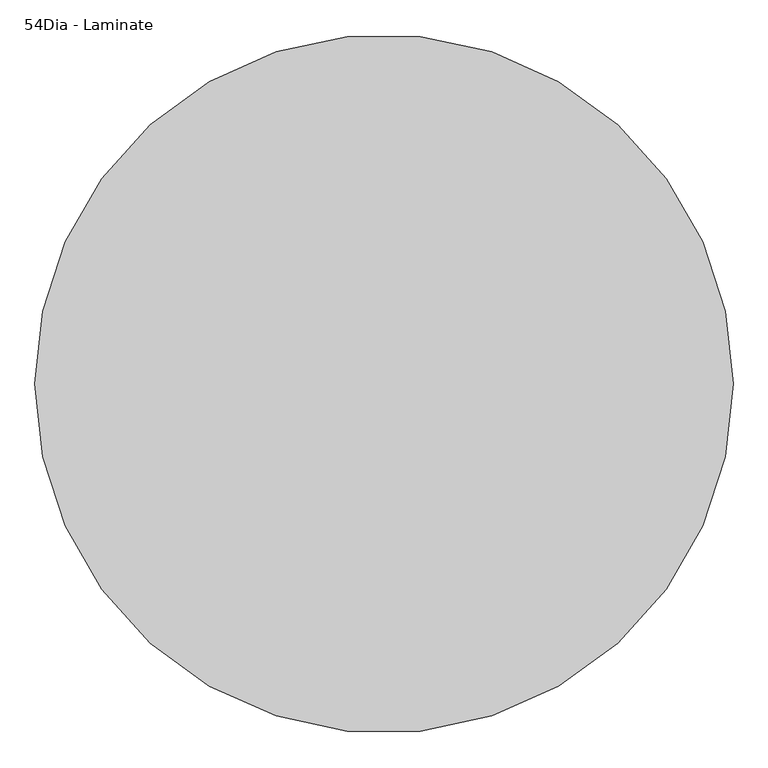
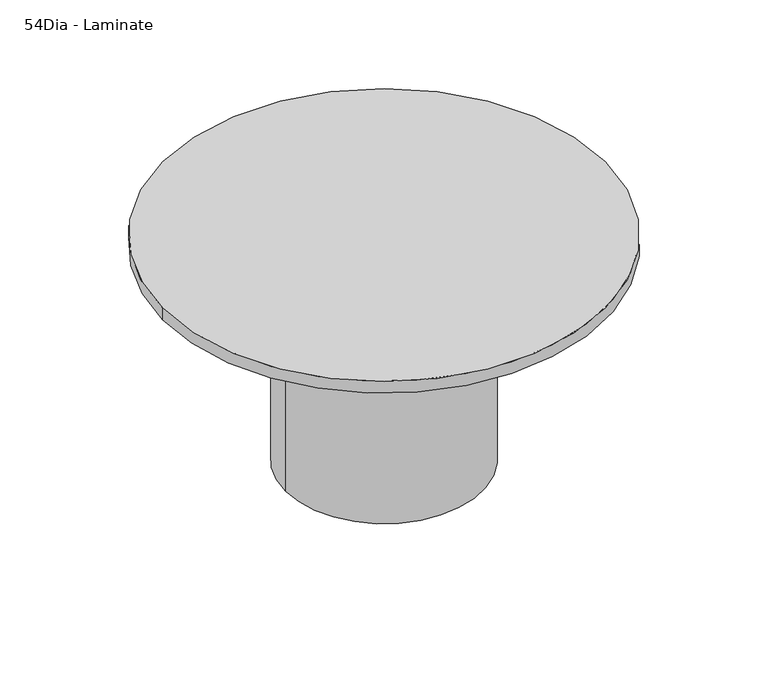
"""IFC4 building model written with IfcOpenShell, lengths in millimetres: furniture geometry, Coalesse_AM_Table_Conference_ETable2_Round : 54Dia - Laminate."""

import ifcopenshell
import ifcopenshell.guid

model = None  # the IFC model being written
_history = None  # IfcOwnerHistory: only IFC2X3 demands one
_inside = {}  # id of a spatial element -> (the spatial element, [elements in it])
_under = {}  # id of a project, library or spatial element -> (it, [spatial elements below it])
_declared = {}  # id of a project -> (the project, [libraries it declares])
_typed = {}  # id of a type object -> (the type object, [elements of that type])
_made_of = {}  # id of a material, layer set ... -> (it, [elements and type objects made of it])


def new_model(schema):
    """Start an empty IFC model of exactly this schema.

    Asked for "IFC4X3", IfcOpenShell would pick the latest addendum, in which some entities
    have other attributes; the version numbers below select the first issue.
    IFC2X3 requires an IfcOwnerHistory on every rooted entity: one is made here for all.
    """
    global model, _history
    if schema == "IFC4X3":
        model = ifcopenshell.file(schema_version=(4, 3, 0, 0))
    else:
        model = ifcopenshell.file(schema=schema)
    _inside.clear()
    _under.clear()
    _declared.clear()
    _typed.clear()
    _made_of.clear()
    _history = None
    if model.schema == "IFC2X3":
        org = make("IfcOrganization", Name="unknown")
        user = make(
            "IfcPersonAndOrganization",
            ThePerson=make("IfcPerson", FamilyName="unknown"),
            TheOrganization=org,
        )
        app = make(
            "IfcApplication",
            ApplicationDeveloper=org,
            Version="unknown",
            ApplicationFullName="unknown",
            ApplicationIdentifier="unknown",
        )
        _history = make(
            "IfcOwnerHistory",
            OwningUser=user,
            OwningApplication=app,
            ChangeAction="ADDED",
            CreationDate=0,
        )
    return model


def make(cls, **values):
    """One entity of the class cls with the attributes given. An attribute that is None is left unset."""
    return model.create_entity(
        cls, **{name: value for name, value in values.items() if value is not None}
    )


def rooted(cls, **values):
    """An entity with a GlobalId (a new one), such as an element, a storey or a relation."""
    return make(cls, GlobalId=ifcopenshell.guid.new(), OwnerHistory=_history, **values)


def si_unit(unit_type, name, prefix=None):
    """IfcSIUnit, for example si_unit("LENGTHUNIT", "METRE", prefix="MILLI")."""
    return make("IfcSIUnit", UnitType=unit_type, Prefix=prefix, Name=name)


def assignment(units):
    """IfcUnitAssignment: the units of a project."""
    return None if units is None else make("IfcUnitAssignment", Units=units)


def point(xyz):
    """IfcCartesianPoint."""
    return None if xyz is None else make("IfcCartesianPoint", Coordinates=xyz)


def direction(xyz):
    """IfcDirection."""
    return None if xyz is None else make("IfcDirection", DirectionRatios=xyz)


def frame(location, z_axis=None, x_axis=None):
    """IfcAxis2Placement3D, a coordinate frame: its origin and axes. An axis left out is left unset."""
    return make(
        "IfcAxis2Placement3D",
        Location=point(location),
        Axis=direction(z_axis),
        RefDirection=direction(x_axis),
    )


def frame_2d(location, x_axis=None):
    """IfcAxis2Placement2D, a coordinate frame in the plane: its origin and x axis."""
    return make(
        "IfcAxis2Placement2D", Location=point(location), RefDirection=direction(x_axis)
    )


def origin():
    """The frame at (0, 0, 0) with its axes left unset."""
    return frame((0.0, 0.0, 0.0))


def origin_with_axes():
    """The frame at (0, 0, 0) with the z axis (0, 0, 1) and the x axis (1, 0, 0) written out."""
    return frame((0.0, 0.0, 0.0), z_axis=(0.0, 0.0, 1.0), x_axis=(1.0, 0.0, 0.0))


def origin_2d():
    """The frame at (0, 0) in the plane with its x axis left unset."""
    return frame_2d((0.0, 0.0))


def place(relative_to, where):
    """IfcLocalPlacement: puts the frame where relative to a parent placement (None: the world)."""
    return make(
        "IfcLocalPlacement", PlacementRelTo=relative_to, RelativePlacement=where
    )


def context(
    kind, dimensions, precision=None, world=None, true_north=None, identifier=None
):
    """IfcGeometricRepresentationContext, for example the 3D "Model" context."""
    return make(
        "IfcGeometricRepresentationContext",
        ContextIdentifier=identifier,
        ContextType=kind,
        CoordinateSpaceDimension=dimensions,
        Precision=precision,
        WorldCoordinateSystem=world,
        TrueNorth=true_north,
    )


def project(units=None, contexts=None):
    """IfcProject with its units and contexts."""
    return rooted(
        "IfcProject",
        Name="project",
        RepresentationContexts=contexts,
        UnitsInContext=assignment(units),
    )


def spatial(cls, under=None, at=None, **own):
    """A site, building, storey or space (cls), placed at a placement, below another one or the project."""
    s = rooted(cls, ObjectPlacement=at, **own)
    if under is not None:
        _under.setdefault(under.id(), (under, []))[1].append(s)
    return s


def circle_curve(where, radius):
    """IfcCircle in the frame where."""
    return make("IfcCircle", Position=where, Radius=radius)


def trimmed(basis, trim1, trim2, sense, master):
    """IfcTrimmedCurve: the piece of a basis curve between two trims."""
    return make(
        "IfcTrimmedCurve",
        BasisCurve=basis,
        Trim1=trim1,
        Trim2=trim2,
        SenseAgreement=sense,
        MasterRepresentation=master,
    )


def segment(curve, same_sense, transition):
    """IfcCompositeCurveSegment."""
    return make(
        "IfcCompositeCurveSegment",
        Transition=transition,
        SameSense=same_sense,
        ParentCurve=curve,
    )


def composite_curve(segments, self_intersect=None):
    """IfcCompositeCurve: segments joined end to end."""
    return make("IfcCompositeCurve", Segments=segments, SelfIntersect=self_intersect)


def outline(outer, holes=None, kind="AREA"):
    """IfcArbitraryClosedProfileDef: a profile drawn as a closed curve; with holes, ...WithVoids."""
    if holes is None:
        return make("IfcArbitraryClosedProfileDef", ProfileType=kind, OuterCurve=outer)
    return make(
        "IfcArbitraryProfileDefWithVoids",
        ProfileType=kind,
        OuterCurve=outer,
        InnerCurves=holes,
    )


def extrude(swept, where, along, depth):
    """IfcExtrudedAreaSolid: the profile swept, set in the frame where, extruded along a direction by depth."""
    return make(
        "IfcExtrudedAreaSolid",
        SweptArea=swept,
        Position=where,
        ExtrudedDirection=direction(along),
        Depth=depth,
    )


def shape(context_of_items, identifier, shape_type, items):
    """IfcShapeRepresentation: the items that make up one representation, for example the "Body"."""
    return make(
        "IfcShapeRepresentation",
        ContextOfItems=context_of_items,
        RepresentationIdentifier=identifier,
        RepresentationType=shape_type,
        Items=items,
    )


def source(mapping_origin, context_of_items, identifier, shape_type, items):
    """IfcRepresentationMap: a shape defined once, which mapped items show again and again."""
    return make(
        "IfcRepresentationMap",
        MappingOrigin=mapping_origin,
        MappedRepresentation=shape(context_of_items, identifier, shape_type, items),
    )


def transform(
    local_origin,
    x_axis=None,
    y_axis=None,
    z_axis=None,
    scale=None,
    scale2=None,
    scale3=None,
    uniform=True,
):
    """IfcCartesianTransformationOperator3D, or its non-uniform kind. x_axis, y_axis, z_axis: its Axis1, 2, 3."""
    if uniform:
        return make(
            "IfcCartesianTransformationOperator3D",
            Axis1=direction(x_axis),
            Axis2=direction(y_axis),
            LocalOrigin=point(local_origin),
            Scale=scale,
            Axis3=direction(z_axis),
        )
    return make(
        "IfcCartesianTransformationOperator3DnonUniform",
        Axis1=direction(x_axis),
        Axis2=direction(y_axis),
        LocalOrigin=point(local_origin),
        Scale=scale,
        Axis3=direction(z_axis),
        Scale2=scale2,
        Scale3=scale3,
    )


def mapped(mapping_source, mapping_target):
    """IfcMappedItem: shows the shape of a source again, moved by a transform."""
    return make(
        "IfcMappedItem", MappingSource=mapping_source, MappingTarget=mapping_target
    )


def made_of(thing, what):
    """Note that an element or type object is made of a material, layer set ...; save() writes the relation."""
    if what is not None:
        _made_of.setdefault(what.id(), (what, []))[1].append(thing)
    return thing


def element(
    cls,
    number,
    at=None,
    inside=None,
    cuts=None,
    type_object=None,
    material=None,
    context=None,
    identifier="Body",
    shape_type=None,
    held_by="IfcProductDefinitionShape",
    body=None,
    shapes=None,
    **own,
):
    """One element of the class cls, such as IfcWall. Its Tag is "e" and its number.

    at: its placement. inside: the storey or other place that contains it. cuts: it is an
    opening in that element (IfcRelVoidsElement). A single representation is given by context,
    identifier, shape_type and body (its items); several are given by shapes. held_by: the class
    of the entity that holds the representations. save() writes the other relations.
    """
    e = rooted(cls, Tag="e%d" % number, ObjectPlacement=at, **own)
    if body is not None:
        shapes = [shape(context, identifier, shape_type, body)]
    if shapes is not None:
        e.Representation = make(held_by, Representations=shapes)
    if inside is not None:
        _inside.setdefault(inside.id(), (inside, []))[1].append(e)
    if cuts is not None:
        rooted(
            "IfcRelVoidsElement", RelatingBuildingElement=cuts, RelatedOpeningElement=e
        )
    if type_object is not None:
        _typed.setdefault(type_object.id(), (type_object, []))[1].append(e)
    return made_of(e, material)


def aggregate(whole, parts):
    """IfcRelAggregates: a whole, such as a stair, and the parts it consists of."""
    return rooted("IfcRelAggregates", RelatingObject=whole, RelatedObjects=parts)


def save(model, path):
    """Write the relations noted so far, then the file.

    IfcRelAggregates (storeys below a building ...), IfcRelContainedInSpatialStructure (elements
    in a storey), IfcRelDefinesByType, IfcRelAssociatesMaterial and IfcRelDeclares: one each for
    every whole, place, type object, material and project.
    """
    for whole, parts in _under.values():
        aggregate(whole, parts)
    for where, things in _inside.values():
        rooted(
            "IfcRelContainedInSpatialStructure",
            RelatedElements=things,
            RelatingStructure=where,
        )
    for kind, things in _typed.values():
        rooted("IfcRelDefinesByType", RelatedObjects=things, RelatingType=kind)
    for what, things in _made_of.values():
        rooted("IfcRelAssociatesMaterial", RelatedObjects=things, RelatingMaterial=what)
    for by, libraries in _declared.values():
        rooted("IfcRelDeclares", RelatingContext=by, RelatedDefinitions=libraries)
    model.write(path)


def furniture_54dia_laminate_28bc5881(model_context):
    return source(origin(), model_context, "Body", "SweptSolid", [
        extrude(outline(composite_curve([segment(trimmed(circle_curve(origin_2d(), 685.8), [point((-685.8, 0.0))], [point((685.8, 0.0))], False, "CARTESIAN"), True, "CONTINUOUS"), segment(trimmed(circle_curve(origin_2d(), 685.8), [point((685.8, 0.0))], [point((-685.8, 0.0))], False, "CARTESIAN"), True, "CONTINUOUS")], self_intersect=False)), frame((0.0, 0.0, 698.5), z_axis=(0.0, 0.0, 1.0), x_axis=(1.0, 0.0, 0.0)), (0.0, 0.0, 1.0), 38.1),
        extrude(outline(composite_curve([segment(trimmed(circle_curve(origin_2d(), 228.6), [point((-228.6, 0.0))], [point((228.6, 0.0))], False, "CARTESIAN"), True, "CONTINUOUS"), segment(trimmed(circle_curve(origin_2d(), 228.6), [point((228.6, 0.0))], [point((-228.6, 0.0))], False, "CARTESIAN"), True, "CONTINUOUS")], self_intersect=False)), origin_with_axes(), (0.0, 0.0, 1.0), 3.175),
        extrude(outline(composite_curve([segment(trimmed(circle_curve(origin_2d(), 304.8), [point((-304.8, 0.0))], [point((304.8, 0.0))], False, "CARTESIAN"), True, "CONTINUOUS"), segment(trimmed(circle_curve(origin_2d(), 304.8), [point((304.8, 0.0))], [point((-304.8, 0.0))], False, "CARTESIAN"), True, "CONTINUOUS")], self_intersect=False), holes=[composite_curve([segment(trimmed(circle_curve(origin_2d(), 158.75), [point((-158.75, 0.0))], [point((158.75, 0.0))], True, "CARTESIAN"), True, "CONTINUOUS"), segment(trimmed(circle_curve(origin_2d(), 158.75), [point((158.75, 0.0))], [point((-158.75, 0.0))], True, "CARTESIAN"), True, "CONTINUOUS")], self_intersect=False)]), frame((0.0, 0.0, 3.175), z_axis=(0.0, 0.0, 1.0), x_axis=(1.0, 0.0, 0.0)), (0.0, 0.0, 1.0), 695.325),
    ])


if __name__ == "__main__":
    model = new_model("IFC4")
    model_context = context("Model", 3, world=origin())
    ifc_project = project(units=[si_unit("LENGTHUNIT", "METRE", prefix="MILLI")], contexts=[model_context])
    site = spatial("IfcSite", under=ifc_project)
    building = spatial("IfcBuilding", under=site)
    placement = place(None, origin())
    furniture_54dia_laminate_shape = furniture_54dia_laminate_28bc5881(model_context)
    element("IfcFurniture", 1, ObjectType="Coalesse_AM_Table_Conference_ETable2_Round : 54Dia - Laminate", at=placement, inside=building, context=model_context, shape_type="MappedRepresentation", body=[
        mapped(furniture_54dia_laminate_shape, transform((0.0, 0.0, 0.0), x_axis=(1.0, 0.0, 0.0), y_axis=(0.0, 1.0, 0.0), z_axis=(0.0, 0.0, 1.0))),
    ])
    save(model, "model.ifc")
